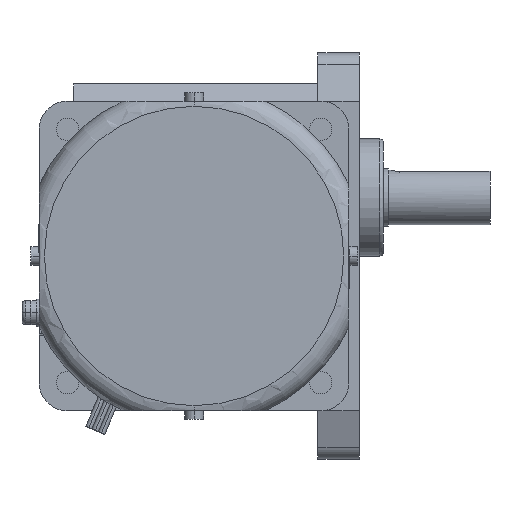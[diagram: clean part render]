
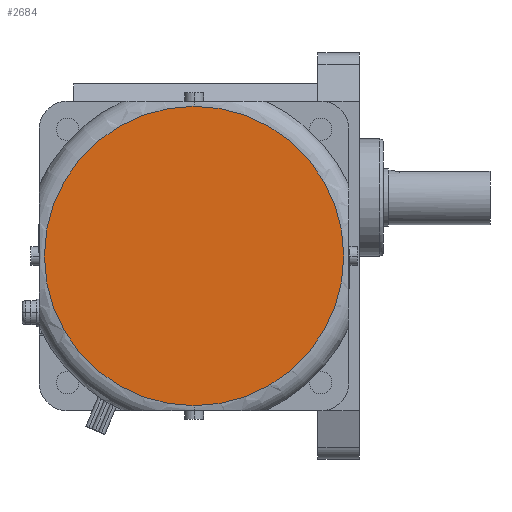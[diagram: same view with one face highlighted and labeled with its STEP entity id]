
A CAD part, left-side view. The second image highlights one B-rep face of the part: STEP entity #2684.
In plain terms, the highlighted planar face has unit normal (-1, 0, 0).
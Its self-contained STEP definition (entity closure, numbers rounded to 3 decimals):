
#2664=CARTESIAN_POINT('POINT450207',(-196.5,48.,26.5));
#2665=VERTEX_POINT('VERTEX450207',#2664);
#2666=CARTESIAN_POINT('POINT450208',(-196.5,48.,-60.5));
#2667=VERTEX_POINT('VERTEX450208',#2666);
#2668=CARTESIAN_POINT('POS753809',(-196.5,48.,-17.));
#2669=DIRECTION('DIR1134876',(-1.,0.,0.));
#2670=DIRECTION('DIR1134877',(0.,0.,-1.));
#2671=AXIS2_PLACEMENT_3D('AXIS381068',#2668,#2669,#2670);
#2672=CIRCLE('ELLIPSE177866',#2671,43.5);
#2673=EDGE_CURVE('EDGE687159',#2665,#2667,#2672,.T.);
#2674=ORIENTED_EDGE('COEDGE1374301',*,*,#2673,.T.);
#2675=EDGE_CURVE('EDGE687160',#2667,#2665,#2672,.T.);
#2676=ORIENTED_EDGE('COEDGE1374302',*,*,#2675,.T.);
#2677=EDGE_LOOP('NONE',(#2674,#2676));
#2678=FACE_BOUND('LOOP1',#2677,.T.);
#2679=CARTESIAN_POINT('POS753810',(-196.5,48.,
   5.25));
#2680=DIRECTION('DIR1134878',(-1.,0.,0.));
#2681=DIRECTION('DIR1134879',(0.,1.,0.));
#2682=AXIS2_PLACEMENT_3D('AXIS381069',#2679,#2680,#2681);
#2683=PLANE('PLANE122605',#2682);
#2684=ADVANCED_FACE('FACE281115',(#2678),#2683,.T.);
